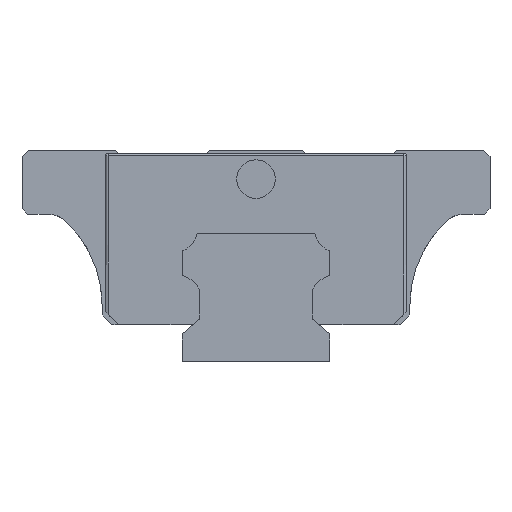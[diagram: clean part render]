
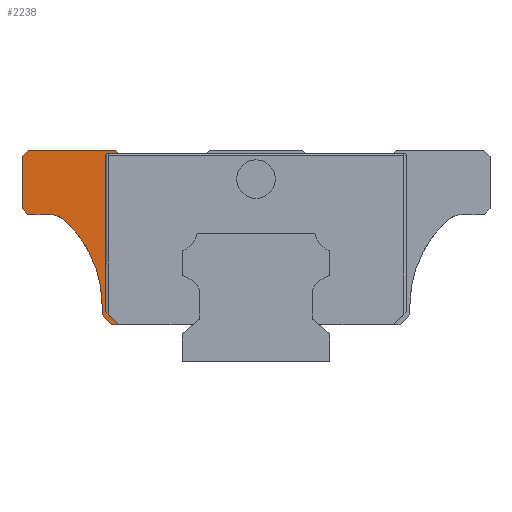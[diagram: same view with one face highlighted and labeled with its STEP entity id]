
A CAD part, left-side view. The second image highlights one B-rep face of the part: STEP entity #2238.
In plain terms, the highlighted planar face has unit normal (-1, 0, 0).
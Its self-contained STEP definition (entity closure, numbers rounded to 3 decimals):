
#72 = AXIS2_PLACEMENT_3D ( 'NONE', #325, #6964, #3915 ) ;
#73 = DIRECTION ( 'NONE',  ( 0., -0.707, -0.707 ) ) ;
#80 = VECTOR ( 'NONE', #7088, 1000. ) ;
#188 = CARTESIAN_POINT ( 'NONE',  ( -29.5, 36.5, 23.9 ) ) ;
#212 = CARTESIAN_POINT ( 'NONE',  ( -29.5, 35.6, 23. ) ) ;
#317 = VERTEX_POINT ( 'NONE', #4395 ) ;
#325 = CARTESIAN_POINT ( 'NONE',  ( -29.5, 23.084, 32.135 ) ) ;
#339 = VECTOR ( 'NONE', #2898, 1000. ) ;
#401 = VERTEX_POINT ( 'NONE', #2543 ) ;
#403 = DIRECTION ( 'NONE',  ( 0., -1., 0. ) ) ;
#430 = VECTOR ( 'NONE', #5077, 1000. ) ;
#471 = CARTESIAN_POINT ( 'NONE',  ( -29.5, 36.5, 23.9 ) ) ;
#540 = LINE ( 'NONE', #471, #1723 ) ;
#607 = CARTESIAN_POINT ( 'NONE',  ( -29.5, 36.5, 32.05 ) ) ;
#652 = FACE_OUTER_BOUND ( 'NONE', #6991, .T. ) ;
#679 = CARTESIAN_POINT ( 'NONE',  ( -29.5, 23.449, 32.135 ) ) ;
#717 = CARTESIAN_POINT ( 'NONE',  ( -29.5, 24., 7.3 ) ) ;
#806 = DIRECTION ( 'NONE',  ( 0., 0., -1. ) ) ;
#812 = ORIENTED_EDGE ( 'NONE', *, *, #3369, .F. ) ;
#875 = CARTESIAN_POINT ( 'NONE',  ( -29.5, 21.48, 32.5 ) ) ;
#921 = EDGE_CURVE ( 'NONE', #7580, #401, #3955, .T. ) ;
#992 = EDGE_CURVE ( 'NONE', #3107, #317, #2905, .T. ) ;
#1003 = LINE ( 'NONE', #7770, #1076 ) ;
#1046 = CARTESIAN_POINT ( 'NONE',  ( -29.5, 35.6, 23. ) ) ;
#1076 = VECTOR ( 'NONE', #7271, 1000. ) ;
#1166 = LINE ( 'NONE', #3624, #7212 ) ;
#1263 = CARTESIAN_POINT ( 'NONE',  ( -29.5, 23.449, 7.8 ) ) ;
#1284 = CARTESIAN_POINT ( 'NONE',  ( -29.5, 22.5, 5.8 ) ) ;
#1353 = ORIENTED_EDGE ( 'NONE', *, *, #6484, .T. ) ;
#1414 = CARTESIAN_POINT ( 'NONE',  ( -29.5, 32.41, 23. ) ) ;
#1417 = LINE ( 'NONE', #3879, #3634 ) ;
#1427 = VERTEX_POINT ( 'NONE', #188 ) ;
#1489 = CARTESIAN_POINT ( 'NONE',  ( -29.5, 23.449, 31.75 ) ) ;
#1526 = DIRECTION ( 'NONE',  ( 1., 0., 0. ) ) ;
#1528 = LINE ( 'NONE', #1489, #430 ) ;
#1621 = CARTESIAN_POINT ( 'NONE',  ( -29.5, 35.55, 33. ) ) ;
#1647 = DIRECTION ( 'NONE',  ( 0., 0., 1. ) ) ;
#1723 = VECTOR ( 'NONE', #5427, 1000. ) ;
#1754 = ORIENTED_EDGE ( 'NONE', *, *, #4471, .F. ) ;
#1773 = LINE ( 'NONE', #1046, #7765 ) ;
#1912 = DIRECTION ( 'NONE',  ( -1., 0., 0. ) ) ;
#1929 = LINE ( 'NONE', #717, #2611 ) ;
#1931 = VERTEX_POINT ( 'NONE', #875 ) ;
#1952 = PLANE ( 'NONE',  #4728 ) ;
#1999 = EDGE_CURVE ( 'NONE', #3199, #4139, #7028, .T. ) ;
#2019 = VERTEX_POINT ( 'NONE', #7123 ) ;
#2133 = CARTESIAN_POINT ( 'NONE',  ( -29.5, 21.9, 33. ) ) ;
#2238 = ADVANCED_FACE ( 'NONE', ( #652 ), #1952, .T. ) ;
#2249 = EDGE_CURVE ( 'NONE', #4139, #7314, #6762, .T. ) ;
#2504 = ORIENTED_EDGE ( 'NONE', *, *, #992, .T. ) ;
#2540 = DIRECTION ( 'NONE',  ( 0., 0., -1. ) ) ;
#2543 = CARTESIAN_POINT ( 'NONE',  ( -29.5, 35.55, 33. ) ) ;
#2611 = VECTOR ( 'NONE', #73, 1000. ) ;
#2613 = CARTESIAN_POINT ( 'NONE',  ( -29.5, 29.671, 21.914 ) ) ;
#2757 = VERTEX_POINT ( 'NONE', #212 ) ;
#2860 = DIRECTION ( 'NONE',  ( 0., 0.707, -0.707 ) ) ;
#2898 = DIRECTION ( 'NONE',  ( 0., 1., 0. ) ) ;
#2905 = CIRCLE ( 'NONE', #72, 0.365 ) ;
#2988 = EDGE_CURVE ( 'NONE', #1931, #7580, #1166, .T. ) ;
#3107 = VERTEX_POINT ( 'NONE', #679 ) ;
#3114 = CARTESIAN_POINT ( 'NONE',  ( -29.5, 42., 8.8 ) ) ;
#3199 = VERTEX_POINT ( 'NONE', #1414 ) ;
#3221 = DIRECTION ( 'NONE',  ( 0., 0.643, 0.766 ) ) ;
#3244 = ORIENTED_EDGE ( 'NONE', *, *, #4194, .F. ) ;
#3369 = EDGE_CURVE ( 'NONE', #1931, #317, #6003, .T. ) ;
#3548 = CARTESIAN_POINT ( 'NONE',  ( -29.5, -24.589, 32.5 ) ) ;
#3602 = LINE ( 'NONE', #4892, #7865 ) ;
#3624 = CARTESIAN_POINT ( 'NONE',  ( -29.5, 21.376, 32.375 ) ) ;
#3634 = VECTOR ( 'NONE', #806, 1000. ) ;
#3811 = AXIS2_PLACEMENT_3D ( 'NONE', #5841, #1526, #1647 ) ;
#3840 = ORIENTED_EDGE ( 'NONE', *, *, #5729, .T. ) ;
#3879 = CARTESIAN_POINT ( 'NONE',  ( -29.5, 24., 8.8 ) ) ;
#3915 = DIRECTION ( 'NONE',  ( 0., 0., 1. ) ) ;
#3955 = LINE ( 'NONE', #5207, #80 ) ;
#4043 = EDGE_CURVE ( 'NONE', #2757, #3199, #1773, .T. ) ;
#4076 = ORIENTED_EDGE ( 'NONE', *, *, #921, .T. ) ;
#4108 = VERTEX_POINT ( 'NONE', #5549 ) ;
#4139 = VERTEX_POINT ( 'NONE', #2613 ) ;
#4194 = EDGE_CURVE ( 'NONE', #3107, #4589, #1528, .T. ) ;
#4196 = CARTESIAN_POINT ( 'NONE',  ( -29.5, 24., 8.8 ) ) ;
#4368 = DIRECTION ( 'NONE',  ( 1., 0., 0. ) ) ;
#4395 = CARTESIAN_POINT ( 'NONE',  ( -29.5, 23.084, 32.5 ) ) ;
#4410 = VECTOR ( 'NONE', #2860, 1000. ) ;
#4471 = EDGE_CURVE ( 'NONE', #4589, #2019, #1003, .T. ) ;
#4589 = VERTEX_POINT ( 'NONE', #1263 ) ;
#4728 = AXIS2_PLACEMENT_3D ( 'NONE', #6269, #1912, #6780 ) ;
#4870 = ORIENTED_EDGE ( 'NONE', *, *, #1999, .T. ) ;
#4892 = CARTESIAN_POINT ( 'NONE',  ( -29.5, 24.236, 5.8 ) ) ;
#4933 = VERTEX_POINT ( 'NONE', #1284 ) ;
#4939 = DIRECTION ( 'NONE',  ( 0., 0., 1. ) ) ;
#5039 = EDGE_CURVE ( 'NONE', #6975, #1427, #5603, .T. ) ;
#5077 = DIRECTION ( 'NONE',  ( 0., 0., -1. ) ) ;
#5207 = CARTESIAN_POINT ( 'NONE',  ( -29.5, 21.9, 33. ) ) ;
#5213 = LINE ( 'NONE', #1621, #4410 ) ;
#5427 = DIRECTION ( 'NONE',  ( 0., -0.707, -0.707 ) ) ;
#5480 = ORIENTED_EDGE ( 'NONE', *, *, #2988, .T. ) ;
#5549 = CARTESIAN_POINT ( 'NONE',  ( -29.5, 24., 7.3 ) ) ;
#5603 = LINE ( 'NONE', #7534, #7230 ) ;
#5615 = AXIS2_PLACEMENT_3D ( 'NONE', #3114, #4368, #4939 ) ;
#5729 = EDGE_CURVE ( 'NONE', #7314, #4108, #1417, .T. ) ;
#5841 = CARTESIAN_POINT ( 'NONE',  ( -29.5, 32.41, 19. ) ) ;
#5843 = EDGE_CURVE ( 'NONE', #401, #6975, #5213, .T. ) ;
#6003 = LINE ( 'NONE', #3548, #339 ) ;
#6052 = ORIENTED_EDGE ( 'NONE', *, *, #4043, .T. ) ;
#6269 = CARTESIAN_POINT ( 'NONE',  ( -29.5, -10.009, 5.8 ) ) ;
#6484 = EDGE_CURVE ( 'NONE', #1427, #2757, #540, .T. ) ;
#6660 = DIRECTION ( 'NONE',  ( 0., -1., 0. ) ) ;
#6735 = ORIENTED_EDGE ( 'NONE', *, *, #6834, .T. ) ;
#6762 = CIRCLE ( 'NONE', #5615, 18. ) ;
#6780 = DIRECTION ( 'NONE',  ( 0., 0., 1. ) ) ;
#6834 = EDGE_CURVE ( 'NONE', #4933, #2019, #3602, .T. ) ;
#6964 = DIRECTION ( 'NONE',  ( 1., 0., 0. ) ) ;
#6965 = ORIENTED_EDGE ( 'NONE', *, *, #7442, .T. ) ;
#6975 = VERTEX_POINT ( 'NONE', #607 ) ;
#6991 = EDGE_LOOP ( 'NONE', ( #1353, #6052, #4870, #7317, #3840, #6965, #6735, #1754, #3244, #2504, #812, #5480, #4076, #7816, #7084 ) ) ;
#7028 = CIRCLE ( 'NONE', #3811, 4. ) ;
#7084 = ORIENTED_EDGE ( 'NONE', *, *, #5039, .T. ) ;
#7088 = DIRECTION ( 'NONE',  ( 0., 1., 0. ) ) ;
#7123 = CARTESIAN_POINT ( 'NONE',  ( -29.5, 21.449, 5.8 ) ) ;
#7212 = VECTOR ( 'NONE', #3221, 1000. ) ;
#7230 = VECTOR ( 'NONE', #2540, 1000. ) ;
#7271 = DIRECTION ( 'NONE',  ( 0., -0.707, -0.707 ) ) ;
#7314 = VERTEX_POINT ( 'NONE', #4196 ) ;
#7317 = ORIENTED_EDGE ( 'NONE', *, *, #2249, .T. ) ;
#7442 = EDGE_CURVE ( 'NONE', #4108, #4933, #1929, .T. ) ;
#7534 = CARTESIAN_POINT ( 'NONE',  ( -29.5, 36.5, 33. ) ) ;
#7580 = VERTEX_POINT ( 'NONE', #2133 ) ;
#7765 = VECTOR ( 'NONE', #403, 1000. ) ;
#7770 = CARTESIAN_POINT ( 'NONE',  ( -29.5, 23.449, 7.8 ) ) ;
#7816 = ORIENTED_EDGE ( 'NONE', *, *, #5843, .T. ) ;
#7865 = VECTOR ( 'NONE', #6660, 1000. ) ;
